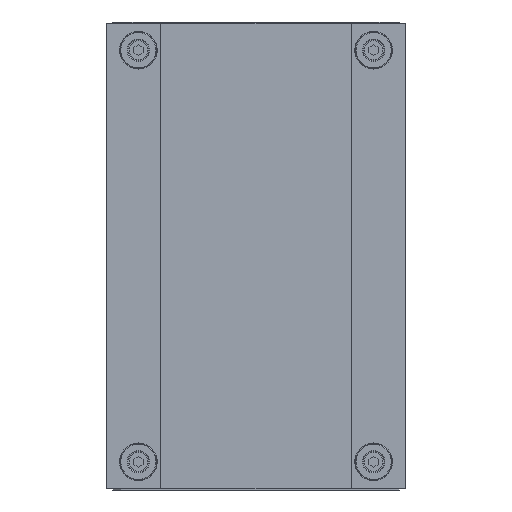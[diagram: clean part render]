
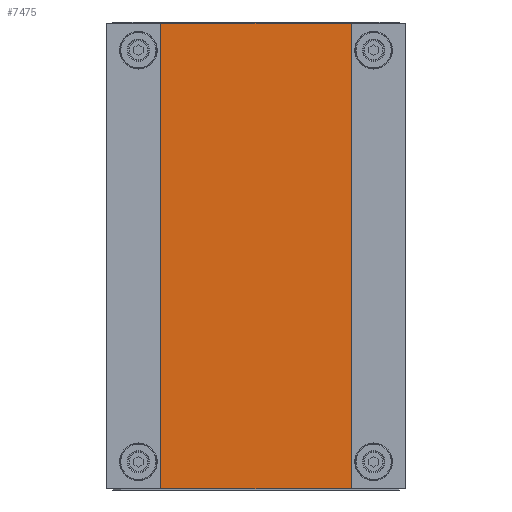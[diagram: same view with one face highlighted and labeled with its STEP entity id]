
A CAD part, front view. The second image highlights one B-rep face of the part: STEP entity #7475.
In plain terms, the highlighted planar face has unit normal (0, -1, 0).
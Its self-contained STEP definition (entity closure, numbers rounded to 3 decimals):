
#1476 = CARTESIAN_POINT ( 'NONE',  ( 84.5, -20., -198. ) ) ;
#2227 = CARTESIAN_POINT ( 'NONE',  ( 84.5, -20., 198. ) ) ;
#2520 = CARTESIAN_POINT ( 'NONE',  ( -84.5, -20., -198. ) ) ;
#2657 = LINE ( 'NONE', #2658, #2659 ) ;
#2658 = CARTESIAN_POINT ( 'NONE',  ( 84.5, -20., 198. ) ) ;
#2659 = VECTOR ( 'NONE', #2660, 1000. ) ;
#2660 = DIRECTION ( 'NONE',  ( 0., 0., -1. ) ) ;
#4842 = VERTEX_POINT ( 'NONE', #1476 ) ;
#5259 = VERTEX_POINT ( 'NONE', #2227 ) ;
#5426 = VERTEX_POINT ( 'NONE', #2520 ) ;
#5515 = EDGE_CURVE ( 'NONE', #5259, #4842, #2657, .T. ) ;
#5664 = EDGE_CURVE ( 'NONE', #5735, #5426, #7157, .T. ) ;
#5735 = VERTEX_POINT ( 'NONE', #7366 ) ;
#7157 = LINE ( 'NONE', #7158, #7159 ) ;
#7158 = CARTESIAN_POINT ( 'NONE',  ( -84.5, -20., 198. ) ) ;
#7159 = VECTOR ( 'NONE', #7160, 1000. ) ;
#7160 = DIRECTION ( 'NONE',  ( 0., 0., -1. ) ) ;
#7366 = CARTESIAN_POINT ( 'NONE',  ( -84.5, -20., 198. ) ) ;
#7475 = ADVANCED_FACE ( 'NONE', ( #8627 ), #8628, .F. ) ;
#7796 = EDGE_LOOP ( 'NONE', ( #8281, #9144, #9628, #10449 ) ) ;
#8281 = ORIENTED_EDGE ( 'NONE', *, *, #8629, .T. ) ;
#8627 = FACE_OUTER_BOUND ( 'NONE', #7796, .T. ) ;
#8628 = PLANE ( 'NONE',  #8632 ) ;
#8629 = EDGE_CURVE ( 'NONE', #5426, #4842, #9442, .T. ) ;
#8632 = AXIS2_PLACEMENT_3D ( 'NONE', #8633, #8634, #8635 ) ;
#8633 = CARTESIAN_POINT ( 'NONE',  ( 84.5, -20., 198. ) ) ;
#8634 = DIRECTION ( 'NONE',  ( 0., 1., 0. ) ) ;
#8635 = DIRECTION ( 'NONE',  ( -1., 0., 0. ) ) ;
#9144 = ORIENTED_EDGE ( 'NONE', *, *, #5515, .F. ) ;
#9442 = LINE ( 'NONE', #9443, #9444 ) ;
#9443 = CARTESIAN_POINT ( 'NONE',  ( 84.5, -20., -198. ) ) ;
#9444 = VECTOR ( 'NONE', #9447, 1000. ) ;
#9447 = DIRECTION ( 'NONE',  ( 1., 0., 0. ) ) ;
#9628 = ORIENTED_EDGE ( 'NONE', *, *, #9945, .F. ) ;
#9945 = EDGE_CURVE ( 'NONE', #5735, #5259, #10454, .T. ) ;
#10449 = ORIENTED_EDGE ( 'NONE', *, *, #5664, .T. ) ;
#10454 = LINE ( 'NONE', #10455, #10456 ) ;
#10455 = CARTESIAN_POINT ( 'NONE',  ( 84.5, -20., 198. ) ) ;
#10456 = VECTOR ( 'NONE', #10457, 1000. ) ;
#10457 = DIRECTION ( 'NONE',  ( 1., 0., 0. ) ) ;
